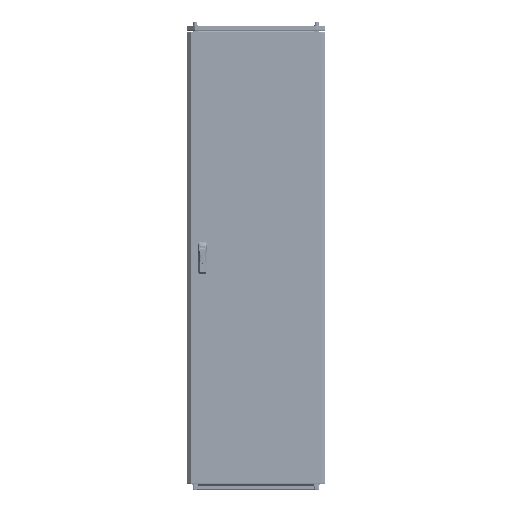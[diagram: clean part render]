
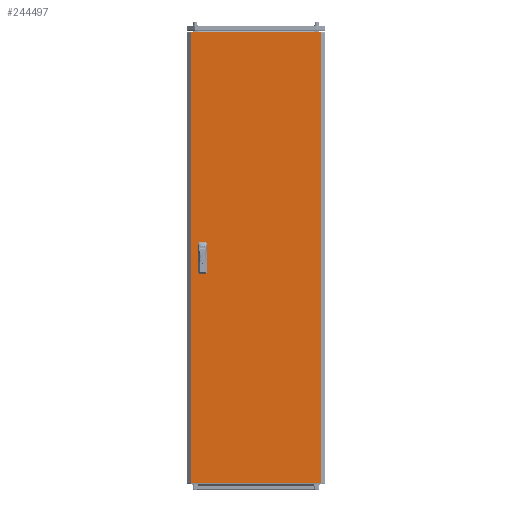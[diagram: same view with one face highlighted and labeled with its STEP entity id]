
A CAD part, top view. The second image highlights one B-rep face of the part: STEP entity #244497.
In plain terms, the highlighted planar face has unit normal (0, 0, 1).
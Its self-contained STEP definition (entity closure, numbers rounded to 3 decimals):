
#4067 = ORIENTED_EDGE ( 'NONE', *, *, #140726, .F. ) ;
#4597 = LINE ( 'NONE', #200632, #213176 ) ;
#6864 = ORIENTED_EDGE ( 'NONE', *, *, #93525, .T. ) ;
#10375 = CARTESIAN_POINT ( 'NONE',  ( -277.875, -969.5, 0. ) ) ;
#13322 = CARTESIAN_POINT ( 'NONE',  ( -242.5, 12.5, 0. ) ) ;
#13342 = VERTEX_POINT ( 'NONE', #96579 ) ;
#17177 = DIRECTION ( 'NONE',  ( -1., 0., 0. ) ) ;
#18630 = EDGE_LOOP ( 'NONE', ( #6864, #157853, #36807, #81518 ) ) ;
#22252 = CARTESIAN_POINT ( 'NONE',  ( -277.875, 969.5, 0. ) ) ;
#24283 = ORIENTED_EDGE ( 'NONE', *, *, #149772, .F. ) ;
#24719 = DIRECTION ( 'NONE',  ( -1., 0., 0. ) ) ;
#26511 = VERTEX_POINT ( 'NONE', #187953 ) ;
#28656 = VERTEX_POINT ( 'NONE', #171878 ) ;
#31759 = FACE_OUTER_BOUND ( 'NONE', #18630, .T. ) ;
#32255 = LINE ( 'NONE', #10375, #62461 ) ;
#32697 = LINE ( 'NONE', #13322, #109467 ) ;
#34660 = DIRECTION ( 'NONE',  ( -1., 0., 0. ) ) ;
#35271 = VECTOR ( 'NONE', #186955, 1000. ) ;
#36807 = ORIENTED_EDGE ( 'NONE', *, *, #37411, .T. ) ;
#37411 = EDGE_CURVE ( 'NONE', #93142, #40074, #196196, .T. ) ;
#37598 = VECTOR ( 'NONE', #176853, 1000. ) ;
#40074 = VERTEX_POINT ( 'NONE', #45386 ) ;
#45386 = CARTESIAN_POINT ( 'NONE',  ( -277.875, -969.5, 0. ) ) ;
#51317 = VECTOR ( 'NONE', #119922, 1000. ) ;
#52986 = EDGE_CURVE ( 'NONE', #189928, #134641, #202411, .T. ) ;
#58306 = CARTESIAN_POINT ( 'NONE',  ( -217.5, -62.5, 0. ) ) ;
#62461 = VECTOR ( 'NONE', #167686, 1000. ) ;
#64264 = CARTESIAN_POINT ( 'NONE',  ( -242.5, -62.5, 0. ) ) ;
#68179 = CARTESIAN_POINT ( 'NONE',  ( -217.5, -12.5, 0. ) ) ;
#73395 = CARTESIAN_POINT ( 'NONE',  ( -217.5, 62.5, 0. ) ) ;
#77040 = ORIENTED_EDGE ( 'NONE', *, *, #184103, .F. ) ;
#79006 = LINE ( 'NONE', #22252, #196945 ) ;
#79164 = VERTEX_POINT ( 'NONE', #58306 ) ;
#81518 = ORIENTED_EDGE ( 'NONE', *, *, #225793, .T. ) ;
#89417 = VECTOR ( 'NONE', #34660, 1000. ) ;
#91964 = DIRECTION ( 'NONE',  ( 0., -1., 0. ) ) ;
#93142 = VERTEX_POINT ( 'NONE', #208368 ) ;
#93525 = EDGE_CURVE ( 'NONE', #160368, #13342, #190889, .T. ) ;
#93957 = VERTEX_POINT ( 'NONE', #68179 ) ;
#96579 = CARTESIAN_POINT ( 'NONE',  ( 277.875, 969.5, 0. ) ) ;
#108377 = ORIENTED_EDGE ( 'NONE', *, *, #215946, .F. ) ;
#108589 = VECTOR ( 'NONE', #136935, 1000. ) ;
#109467 = VECTOR ( 'NONE', #91964, 1000. ) ;
#109588 = CARTESIAN_POINT ( 'NONE',  ( -242.5, -62.5, 0. ) ) ;
#111740 = LINE ( 'NONE', #132319, #198887 ) ;
#113780 = CARTESIAN_POINT ( 'NONE',  ( -277.875, -969.5, 0. ) ) ;
#115545 = DIRECTION ( 'NONE',  ( 1., 0., 0. ) ) ;
#116188 = ORIENTED_EDGE ( 'NONE', *, *, #173527, .F. ) ;
#119922 = DIRECTION ( 'NONE',  ( 0., -1., 0. ) ) ;
#125226 = CARTESIAN_POINT ( 'NONE',  ( -242.5, 62.5, 0. ) ) ;
#128398 = CARTESIAN_POINT ( 'NONE',  ( 0., 0., 0. ) ) ;
#132319 = CARTESIAN_POINT ( 'NONE',  ( -242.5, 12.5, 0. ) ) ;
#134641 = VERTEX_POINT ( 'NONE', #64264 ) ;
#136935 = DIRECTION ( 'NONE',  ( 0., 1., 0. ) ) ;
#140217 = VECTOR ( 'NONE', #24719, 1000. ) ;
#140726 = EDGE_CURVE ( 'NONE', #28656, #160283, #233783, .T. ) ;
#143080 = CARTESIAN_POINT ( 'NONE',  ( -242.5, -62.5, 0. ) ) ;
#143299 = LINE ( 'NONE', #125226, #140217 ) ;
#146976 = LINE ( 'NONE', #109588, #35271 ) ;
#149004 = DIRECTION ( 'NONE',  ( 0., 0., -1. ) ) ;
#149772 = EDGE_CURVE ( 'NONE', #26511, #184079, #32697, .T. ) ;
#150916 = DIRECTION ( 'NONE',  ( 0., 1., 0. ) ) ;
#157853 = ORIENTED_EDGE ( 'NONE', *, *, #176667, .T. ) ;
#160283 = VERTEX_POINT ( 'NONE', #73395 ) ;
#160368 = VERTEX_POINT ( 'NONE', #196993 ) ;
#167168 = PLANE ( 'NONE',  #206412 ) ;
#167686 = DIRECTION ( 'NONE',  ( 1., 0., 0. ) ) ;
#170289 = CARTESIAN_POINT ( 'NONE',  ( 277.875, -969.5, 0. ) ) ;
#171255 = EDGE_CURVE ( 'NONE', #184079, #28656, #111740, .T. ) ;
#171380 = LINE ( 'NONE', #199185, #89417 ) ;
#171878 = CARTESIAN_POINT ( 'NONE',  ( -217.5, 12.5, 0. ) ) ;
#173527 = EDGE_CURVE ( 'NONE', #79164, #93957, #4597, .T. ) ;
#174527 = EDGE_LOOP ( 'NONE', ( #198181, #4067, #235948, #24283 ) ) ;
#175947 = EDGE_LOOP ( 'NONE', ( #108377, #116188, #77040, #190752 ) ) ;
#176667 = EDGE_CURVE ( 'NONE', #13342, #93142, #79006, .T. ) ;
#176853 = DIRECTION ( 'NONE',  ( 0., -1., 0. ) ) ;
#184079 = VERTEX_POINT ( 'NONE', #184456 ) ;
#184103 = EDGE_CURVE ( 'NONE', #134641, #79164, #146976, .T. ) ;
#184456 = CARTESIAN_POINT ( 'NONE',  ( -242.5, 12.5, 0. ) ) ;
#185226 = FACE_BOUND ( 'NONE', #174527, .T. ) ;
#186955 = DIRECTION ( 'NONE',  ( 1., 0., 0. ) ) ;
#187953 = CARTESIAN_POINT ( 'NONE',  ( -242.5, 62.5, 0. ) ) ;
#189928 = VERTEX_POINT ( 'NONE', #235357 ) ;
#190752 = ORIENTED_EDGE ( 'NONE', *, *, #52986, .F. ) ;
#190889 = LINE ( 'NONE', #170289, #206582 ) ;
#196196 = LINE ( 'NONE', #113780, #37598 ) ;
#196945 = VECTOR ( 'NONE', #17177, 1000. ) ;
#196993 = CARTESIAN_POINT ( 'NONE',  ( 277.875, -969.5, 0. ) ) ;
#198181 = ORIENTED_EDGE ( 'NONE', *, *, #243909, .F. ) ;
#198887 = VECTOR ( 'NONE', #115545, 1000. ) ;
#199185 = CARTESIAN_POINT ( 'NONE',  ( -242.5, -12.5, 0. ) ) ;
#200632 = CARTESIAN_POINT ( 'NONE',  ( -217.5, -62.5, 0. ) ) ;
#202411 = LINE ( 'NONE', #143080, #51317 ) ;
#204471 = DIRECTION ( 'NONE',  ( 0., 1., 0. ) ) ;
#206412 = AXIS2_PLACEMENT_3D ( 'NONE', #128398, #149004, #227678 ) ;
#206582 = VECTOR ( 'NONE', #150916, 1000. ) ;
#208368 = CARTESIAN_POINT ( 'NONE',  ( -277.875, 969.5, 0. ) ) ;
#213176 = VECTOR ( 'NONE', #204471, 1000. ) ;
#215946 = EDGE_CURVE ( 'NONE', #93957, #189928, #171380, .T. ) ;
#225793 = EDGE_CURVE ( 'NONE', #40074, #160368, #32255, .T. ) ;
#226476 = CARTESIAN_POINT ( 'NONE',  ( -217.5, 12.5, 0. ) ) ;
#227678 = DIRECTION ( 'NONE',  ( -1., 0., 0. ) ) ;
#233783 = LINE ( 'NONE', #226476, #108589 ) ;
#235357 = CARTESIAN_POINT ( 'NONE',  ( -242.5, -12.5, 0. ) ) ;
#235948 = ORIENTED_EDGE ( 'NONE', *, *, #171255, .F. ) ;
#243909 = EDGE_CURVE ( 'NONE', #160283, #26511, #143299, .T. ) ;
#244497 = ADVANCED_FACE ( 'NONE', ( #185226, #247092, #31759 ), #167168, .F. ) ;
#247092 = FACE_BOUND ( 'NONE', #175947, .T. ) ;
